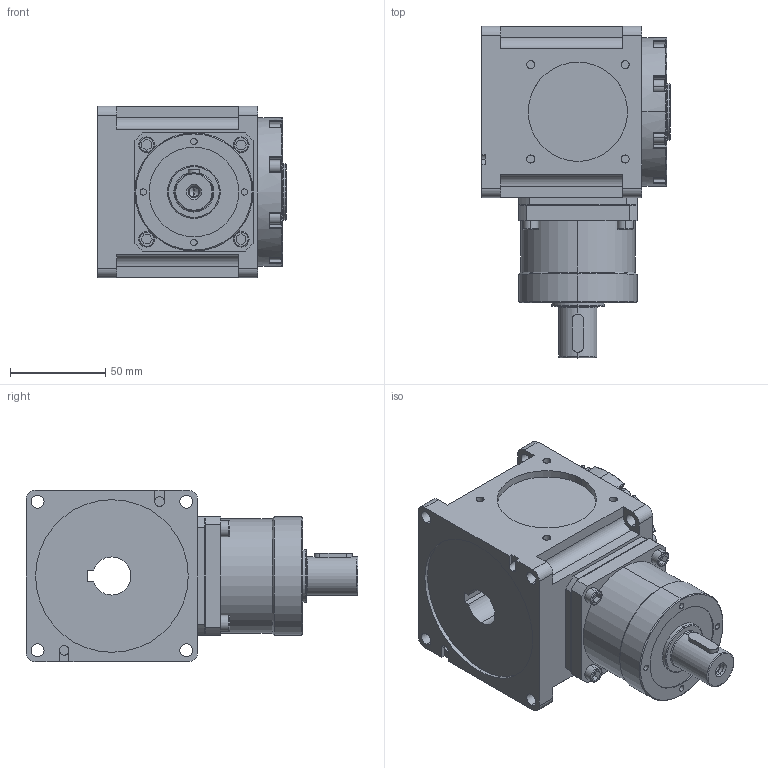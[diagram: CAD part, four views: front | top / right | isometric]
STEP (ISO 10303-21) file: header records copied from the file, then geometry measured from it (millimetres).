
FILE_DESCRIPTION (( 'STEP AP214' ), '1' );
FILE_NAME ('CCT090A-002-CR.STEP', '2025-06-03T02:26:29', ( '微软用户' ), ( '微软中国' ), 'SwSTEP 2.0', 'SolidWorks 2024', '' );
FILE_SCHEMA (( 'AUTOMOTIVE_DESIGN' ));
Length unit declared in the file: millimetre
Products named in the file (3): CCW090A输入模块; CCT090A-002-CR; CCW090A-002-CR箱体
Assembly tree (2 placements, depth 2):
  CCT090A-002-CR
    CCW090A-002-CR箱体
    CCW090A输入模块
Bounding box: 99 x 174 x 90 mm (x, y, z)
Volume: 794648.2 mm3; surface area: 87885.5 mm2
Topology: 2 solids, 2 shells, 477 faces, 1137 edges, 714 vertices
Faces by surface type: plane 205, cylinder 189, torus 41, cone 22, sphere 20
Entity records: 13901 total; most frequent: DIRECTION 2559, CARTESIAN_POINT 2435, ORIENTED_EDGE 2238, EDGE_CURVE 1119, AXIS2_PLACEMENT_3D 978, VERTEX_POINT 706, VECTOR 603, LINE 603
